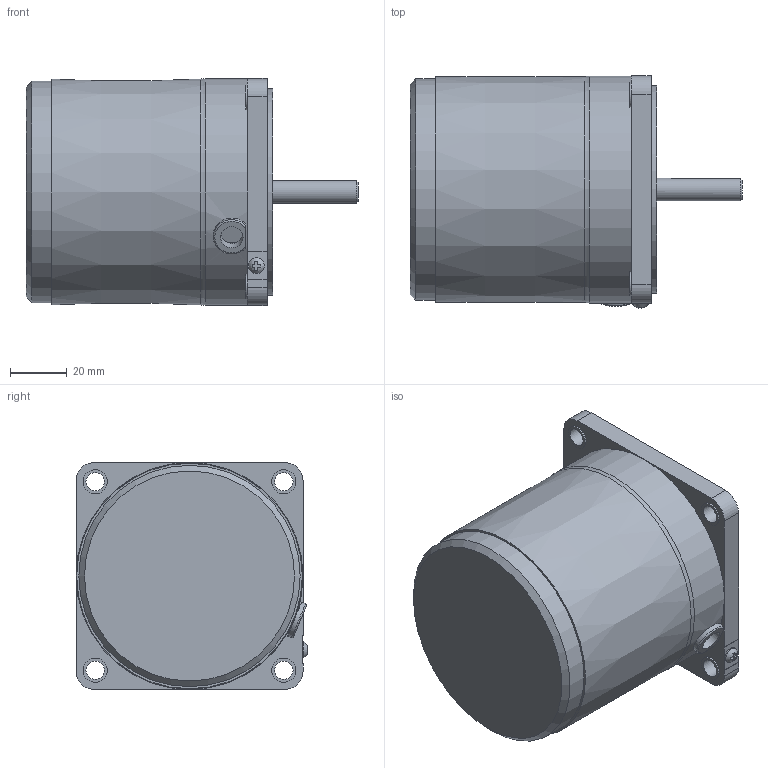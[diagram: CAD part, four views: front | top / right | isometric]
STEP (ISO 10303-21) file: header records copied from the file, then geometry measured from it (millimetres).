
FILE_DESCRIPTION(/* description */ (''),/* implementation_level */ '2;1');
FILE_NAME(/* name */ 'E:\도면작업\2016\0704) 미주향 SG 도면\3D MOTOR\SG8I25K_.stp',/* time_stamp */ '2016-07-22T13:46:20+09:00',/* author */ ('jy-jung'),/* organization */ (''),/* preprocessor_version */ 'ST-DEVELOPER v15.6',/* originating_system */ 'Autodesk Inventor 2015',/* authorisation */ '');
FILE_SCHEMA (('AUTOMOTIVE_DESIGN { 1 0 10303 214 3 1 1 }'));
Length unit declared in the file: millimetre
Products named in the file (1): 부품1
Bounding box: 117 x 81.76 x 80 mm (x, y, z)
Volume: 427703.1 mm3; surface area: 37579.4 mm2
Topology: 1 solids, 2 shells, 105 faces, 257 edges, 170 vertices
Faces by surface type: plane 66, cylinder 33, cone 3, torus 2, bspline 1
Full cylindrical faces by diameter (mm): 5.6 x1, 6.5 x4, 8 x2, 8.5 x4, 34 x1, 73 x1, 78 x1, 80 x1
Entity records: 3279 total; most frequent: CARTESIAN_POINT 681, DIRECTION 505, ORIENTED_EDGE 476, EDGE_CURVE 238, AXIS2_PLACEMENT_3D 185, VERTEX_POINT 169, EDGE_LOOP 145, LINE 135
